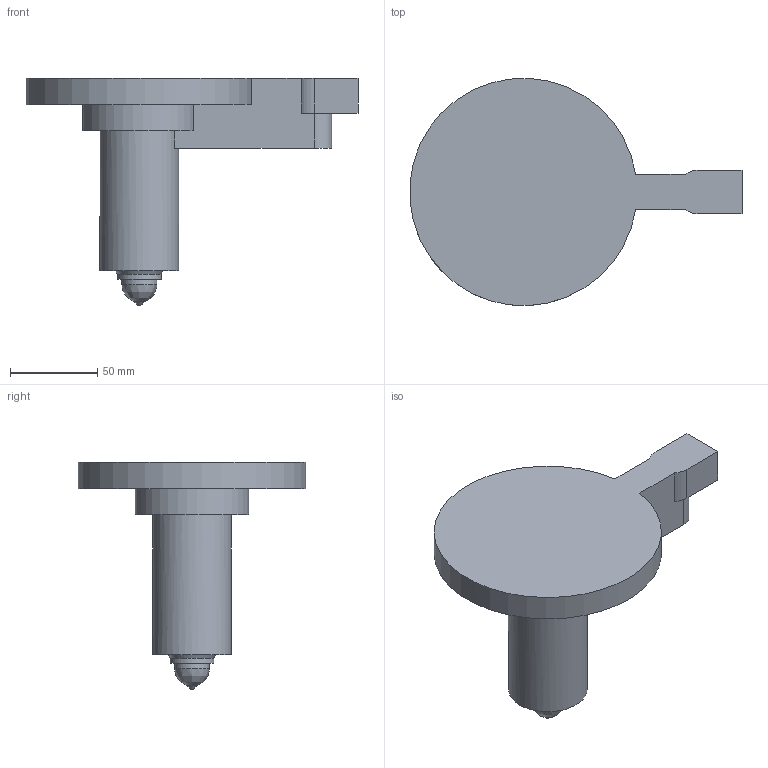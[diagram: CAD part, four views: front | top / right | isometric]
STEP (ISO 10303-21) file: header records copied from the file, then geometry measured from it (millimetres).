
FILE_DESCRIPTION( ( 'STEP AP214' ), '1' );
FILE_NAME( 'S:/PROIECTE_YUDO_2009_dupa_1.07.2009/PROIECTE YUDO 3D 01.07.2009/BLS/YUEU09-BLS25100/YUEU09-BLS25CC100_cutout.step', '2009-08-24T06:35:14', ( ' ' ), ( ' ' ), 'XStep 1.0', ' ', ' ' );
FILE_SCHEMA( ( 'automotive_design' ) );
Length unit declared in the file: millimetre
Products named in the file (2): 1; 2
Bounding box: 189.76 x 129.83 x 130 mm (x, y, z)
Volume: 444506.8 mm3; surface area: 57309.4 mm2
Topology: 2 solids, 2 shells, 25 faces, 58 edges, 38 vertices
Faces by surface type: plane 14, cylinder 8, cone 2, bspline 1
Full cylindrical faces by diameter (mm): 20 x1, 25 x1, 45 x1
Entity records: 922 total; most frequent: CARTESIAN_POINT 140, DIRECTION 122, ORIENTED_EDGE 100, EDGE_CURVE 50, AXIS2_PLACEMENT_3D 46, VERTEX_POINT 36, EDGE_LOOP 32, LINE 30
